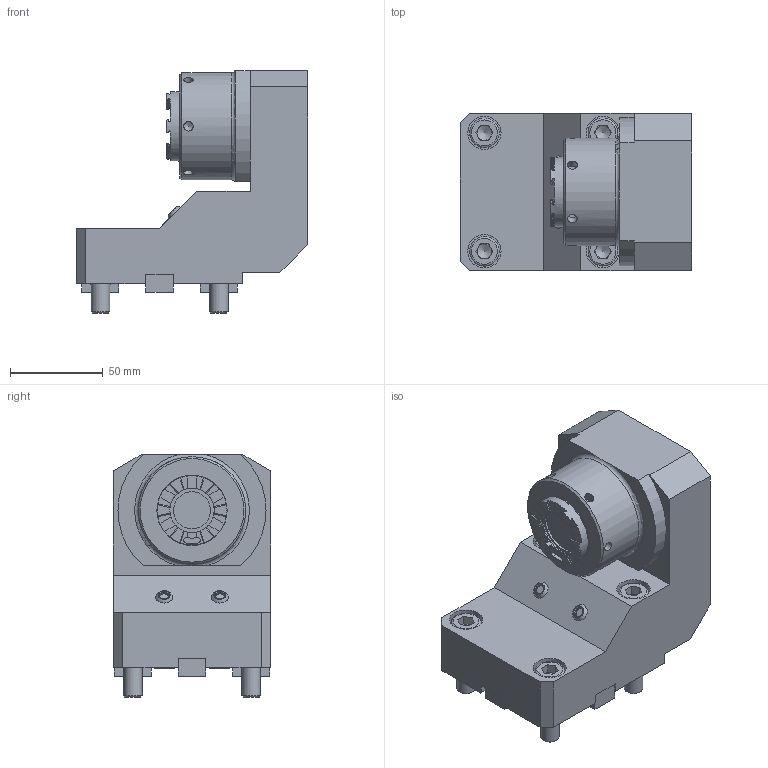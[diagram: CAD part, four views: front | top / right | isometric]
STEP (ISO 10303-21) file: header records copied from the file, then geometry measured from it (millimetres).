
FILE_DESCRIPTION(/* description */ (''),/* implementation_level */ '2;1');
FILE_NAME(/* name */ '162304-UNI',/* time_stamp */ '2022-06-29T11:19:34+02:00',/* author */ (''),/* organization */ (''),/* preprocessor_version */ 'ST-DEVELOPER v16.5',/* originating_system */ 'HiCAD 2017 2201.0 Build 268',/* authorisation */ '');
FILE_SCHEMA (('AUTOMOTIVE_DESIGN { 1 0 10303 214 1 1 1 1 }'));
Length unit declared in the file: millimetre
Products named in the file (2): Root; Teil
Assembly tree (1 placements, depth 2):
  Root
    Teil
Bounding box: 125 x 85 x 131 mm (x, y, z)
Volume: 688960.4 mm3; surface area: 71312.9 mm2
Topology: 1 solids, 1 shells, 321 faces, 865 edges, 574 vertices
Faces by surface type: plane 206, cylinder 89, cone 18, torus 6, sphere 2
Full cylindrical faces by diameter (mm): 5 x2, 5.1 x6, 7.65 x2, 10 x4, 11.01 x2, 11.1 x2, 16 x4, 18 x4, 20 x1, 24 x1, 27 x2, 29.4 x1, 37.5 x1, 38 x1, 40 x1, 58 x1
Entity records: 17670 total; most frequent: CARTESIAN_POINT 2658, PRESENTATION_STYLE_ASSIGNMENT 1515, COLOUR_RGB 1515, DRAUGHTING_PRE_DEFINED_CURVE_FONT 1514, CURVE_STYLE 1514, OVER_RIDING_STYLED_ITEM 1514, ORIENTED_EDGE 1514, DIRECTION 1509
